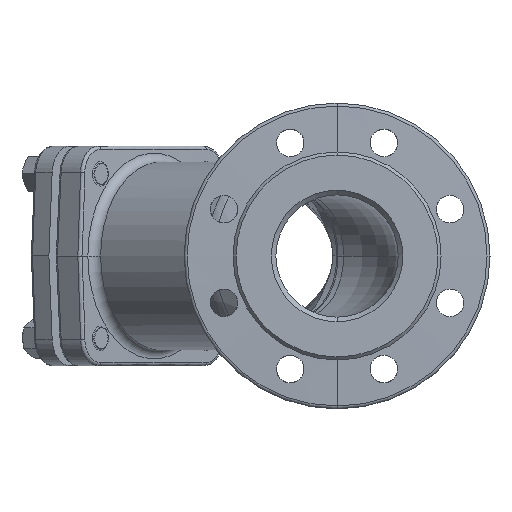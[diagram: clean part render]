
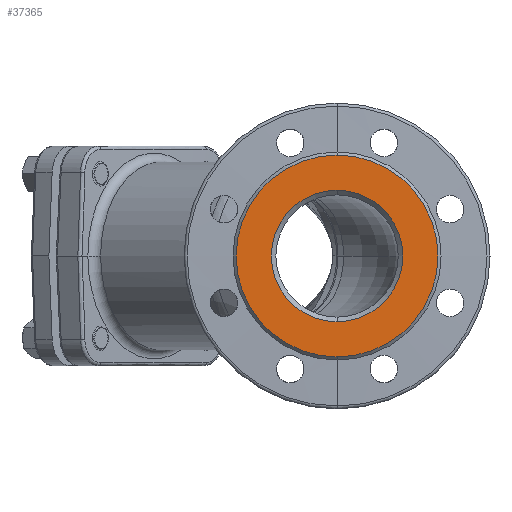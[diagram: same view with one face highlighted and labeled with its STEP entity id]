
A CAD part, left-side view. The second image highlights one B-rep face of the part: STEP entity #37365.
In plain terms, the highlighted planar face has unit normal (-1, 0, 0).
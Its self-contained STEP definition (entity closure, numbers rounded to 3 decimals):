
#5978 = ORIENTED_EDGE ( 'NONE', *, *, #31518, .T. ) ;
#5980 = ORIENTED_EDGE ( 'NONE', *, *, #15986, .T. ) ;
#5982 = ORIENTED_EDGE ( 'NONE', *, *, #15996, .T. ) ;
#5984 = ORIENTED_EDGE ( 'NONE', *, *, #31615, .T. ) ;
#11822 = AXIS2_PLACEMENT_3D ( 'NONE', #42609, #42626, #42627 ) ;
#11857 = AXIS2_PLACEMENT_3D ( 'NONE', #43617, #43626, #43627 ) ;
#11967 = AXIS2_PLACEMENT_3D ( 'NONE', #17225, #17242, #17244 ) ;
#12264 = CIRCLE ( 'NONE', #11822, 43. ) ;
#12374 = CIRCLE ( 'NONE', #11857, 66. ) ;
#12595 = FACE_OUTER_BOUND ( 'NONE', #20653, .T. ) ;
#12600 = FACE_BOUND ( 'NONE', #20638, .T. ) ;
#14878 = CIRCLE ( 'NONE', #17260, 43. ) ;
#14883 = CIRCLE ( 'NONE', #17274, 66. ) ;
#15986 = EDGE_CURVE ( 'NONE', #33702, #33704, #14878, .T. ) ;
#15996 = EDGE_CURVE ( 'NONE', #33826, #33824, #14883, .T. ) ;
#17077 = CARTESIAN_POINT ( 'NONE',  ( 0., 0., -43. ) ) ;
#17078 = CARTESIAN_POINT ( 'NONE',  ( 0., 0., 43. ) ) ;
#17181 = CARTESIAN_POINT ( 'NONE',  ( 0., 0., 66. ) ) ;
#17183 = CARTESIAN_POINT ( 'NONE',  ( 0., 0., -66. ) ) ;
#17225 = CARTESIAN_POINT ( 'NONE',  ( 0., 0., 0. ) ) ;
#17227 = PLANE ( 'NONE',  #11967 ) ;
#17242 = DIRECTION ( 'NONE',  ( -1., 0., 0. ) ) ;
#17244 = DIRECTION ( 'NONE',  ( 0., 0., 1. ) ) ;
#17260 = AXIS2_PLACEMENT_3D ( 'NONE', #33948, #34075, #34077 ) ;
#17274 = AXIS2_PLACEMENT_3D ( 'NONE', #34100, #34103, #34105 ) ;
#20638 = EDGE_LOOP ( 'NONE', ( #5978, #5980 ) ) ;
#20653 = EDGE_LOOP ( 'NONE', ( #5982, #5984 ) ) ;
#31518 = EDGE_CURVE ( 'NONE', #33704, #33702, #12264, .T. ) ;
#31615 = EDGE_CURVE ( 'NONE', #33824, #33826, #12374, .T. ) ;
#33702 = VERTEX_POINT ( 'NONE', #17077 ) ;
#33704 = VERTEX_POINT ( 'NONE', #17078 ) ;
#33824 = VERTEX_POINT ( 'NONE', #17181 ) ;
#33826 = VERTEX_POINT ( 'NONE', #17183 ) ;
#33948 = CARTESIAN_POINT ( 'NONE',  ( 0., 0., 0. ) ) ;
#34075 = DIRECTION ( 'NONE',  ( 1., 0., 0. ) ) ;
#34077 = DIRECTION ( 'NONE',  ( 0., 0., 1. ) ) ;
#34100 = CARTESIAN_POINT ( 'NONE',  ( 0., 0., 0. ) ) ;
#34103 = DIRECTION ( 'NONE',  ( -1., 0., 0. ) ) ;
#34105 = DIRECTION ( 'NONE',  ( 0., 0., 1. ) ) ;
#37365 = ADVANCED_FACE ( 'NONE', ( #12600, #12595 ), #17227, .T. ) ;
#42609 = CARTESIAN_POINT ( 'NONE',  ( 0., 0., 0. ) ) ;
#42626 = DIRECTION ( 'NONE',  ( 1., 0., 0. ) ) ;
#42627 = DIRECTION ( 'NONE',  ( 0., 0., 1. ) ) ;
#43617 = CARTESIAN_POINT ( 'NONE',  ( 0., 0., 0. ) ) ;
#43626 = DIRECTION ( 'NONE',  ( -1., 0., 0. ) ) ;
#43627 = DIRECTION ( 'NONE',  ( 0., 0., 1. ) ) ;
